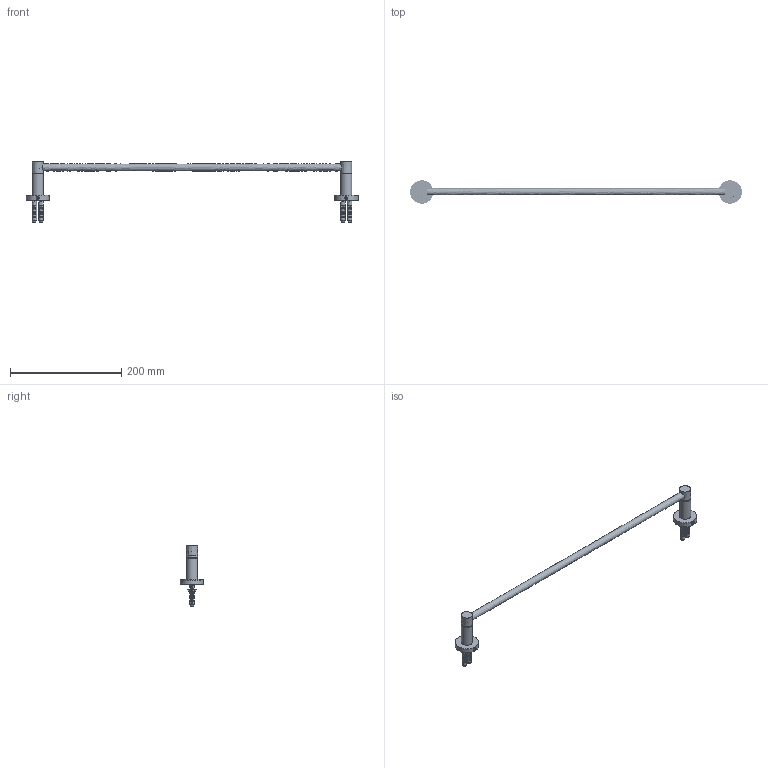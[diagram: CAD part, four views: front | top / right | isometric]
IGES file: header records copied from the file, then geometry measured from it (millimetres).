
Global section: file name: 99adb52f-4c34-4e4c-a78e-114367540497.zip; native system: unknown; preprocessor: unknown; author: unknown; organization: unknown; date: 20200108.121927; units: millimetre
Bounding box: 596 x 41.97 x 108 mm (x, y, z)
Volume: 44035.8 mm3; surface area: 87426.9 mm2
Topology: 25 solids, 25 shells, 924 faces, 2431 edges, 1599 vertices
Faces by surface type: bspline 924
